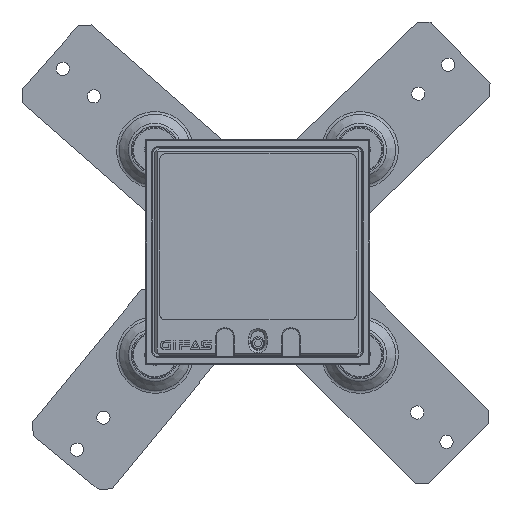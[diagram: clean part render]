
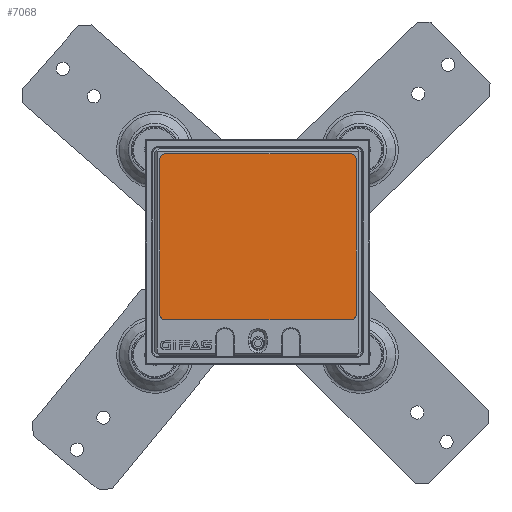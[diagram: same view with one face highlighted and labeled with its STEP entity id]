
A CAD part, top view. The second image highlights one B-rep face of the part: STEP entity #7068.
In plain terms, the highlighted planar face has unit normal (0, 0, 1).
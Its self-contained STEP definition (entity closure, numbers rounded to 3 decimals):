
#440=CIRCLE('',#7773,3.);
#442=CIRCLE('',#7777,3.);
#444=CIRCLE('',#7781,3.);
#446=CIRCLE('',#7785,3.);
#819=FACE_OUTER_BOUND('',#1248,.T.);
#1248=EDGE_LOOP('',(#5263,#5264,#5265,#5266,#5267,#5268,#5269,#5270));
#1758=LINE('',#10961,#2434);
#1762=LINE('',#10973,#2438);
#1766=LINE('',#10985,#2442);
#1770=LINE('',#10996,#2446);
#2434=VECTOR('',#8900,10.);
#2438=VECTOR('',#8912,10.);
#2442=VECTOR('',#8924,10.);
#2446=VECTOR('',#8936,10.);
#3117=VERTEX_POINT('',#10951);
#3118=VERTEX_POINT('',#10952);
#3121=VERTEX_POINT('',#10960);
#3123=VERTEX_POINT('',#10966);
#3125=VERTEX_POINT('',#10972);
#3127=VERTEX_POINT('',#10978);
#3129=VERTEX_POINT('',#10984);
#3131=VERTEX_POINT('',#10990);
#3897=EDGE_CURVE('',#3117,#3118,#440,.T.);
#3901=EDGE_CURVE('',#3117,#3121,#1758,.T.);
#3904=EDGE_CURVE('',#3123,#3121,#442,.T.);
#3907=EDGE_CURVE('',#3123,#3125,#1762,.T.);
#3910=EDGE_CURVE('',#3127,#3125,#444,.T.);
#3913=EDGE_CURVE('',#3127,#3129,#1766,.T.);
#3916=EDGE_CURVE('',#3131,#3129,#446,.T.);
#3919=EDGE_CURVE('',#3131,#3118,#1770,.T.);
#5263=ORIENTED_EDGE('',*,*,#3897,.T.);
#5264=ORIENTED_EDGE('',*,*,#3919,.F.);
#5265=ORIENTED_EDGE('',*,*,#3916,.T.);
#5266=ORIENTED_EDGE('',*,*,#3913,.F.);
#5267=ORIENTED_EDGE('',*,*,#3910,.T.);
#5268=ORIENTED_EDGE('',*,*,#3907,.F.);
#5269=ORIENTED_EDGE('',*,*,#3904,.T.);
#5270=ORIENTED_EDGE('',*,*,#3901,.F.);
#6770=PLANE('',#7787);
#7068=ADVANCED_FACE('',(#819),#6770,.F.);
#7773=AXIS2_PLACEMENT_3D('',#10953,#8892,#8893);
#7777=AXIS2_PLACEMENT_3D('',#10967,#8905,#8906);
#7781=AXIS2_PLACEMENT_3D('',#10979,#8917,#8918);
#7785=AXIS2_PLACEMENT_3D('',#10991,#8929,#8930);
#7787=AXIS2_PLACEMENT_3D('',#10995,#8934,#8935);
#8892=DIRECTION('center_axis',(0.,0.,1.));
#8893=DIRECTION('ref_axis',(0.707,0.707,0.));
#8900=DIRECTION('',(0.,-1.,0.));
#8905=DIRECTION('center_axis',(0.,0.,1.));
#8906=DIRECTION('ref_axis',(0.707,-0.707,0.));
#8912=DIRECTION('',(-1.,0.,0.));
#8917=DIRECTION('center_axis',(0.,0.,1.));
#8918=DIRECTION('ref_axis',(-0.707,-0.707,0.));
#8924=DIRECTION('',(0.,1.,0.));
#8929=DIRECTION('center_axis',(0.,0.,1.));
#8930=DIRECTION('ref_axis',(-0.707,0.707,0.));
#8934=DIRECTION('center_axis',(0.,0.,-1.));
#8935=DIRECTION('ref_axis',(-1.,0.,0.));
#8936=DIRECTION('',(1.,0.,0.));
#10951=CARTESIAN_POINT('',(52.,49.,2.7));
#10952=CARTESIAN_POINT('',(49.,52.,2.7));
#10953=CARTESIAN_POINT('Origin',(49.,49.,2.7));
#10960=CARTESIAN_POINT('',(52.,-33.,2.7));
#10961=CARTESIAN_POINT('',(52.,52.,2.7));
#10966=CARTESIAN_POINT('',(49.,-36.,2.7));
#10967=CARTESIAN_POINT('Origin',(49.,-33.,2.7));
#10972=CARTESIAN_POINT('',(-49.,-36.,2.7));
#10973=CARTESIAN_POINT('',(52.,-36.,2.7));
#10978=CARTESIAN_POINT('',(-52.,-33.,2.7));
#10979=CARTESIAN_POINT('Origin',(-49.,-33.,2.7));
#10984=CARTESIAN_POINT('',(-52.,49.,2.7));
#10985=CARTESIAN_POINT('',(-52.,-36.,2.7));
#10990=CARTESIAN_POINT('',(-49.,52.,2.7));
#10991=CARTESIAN_POINT('Origin',(-49.,49.,2.7));
#10995=CARTESIAN_POINT('Origin',(0.,8.,2.7));
#10996=CARTESIAN_POINT('',(-52.,52.,2.7));
